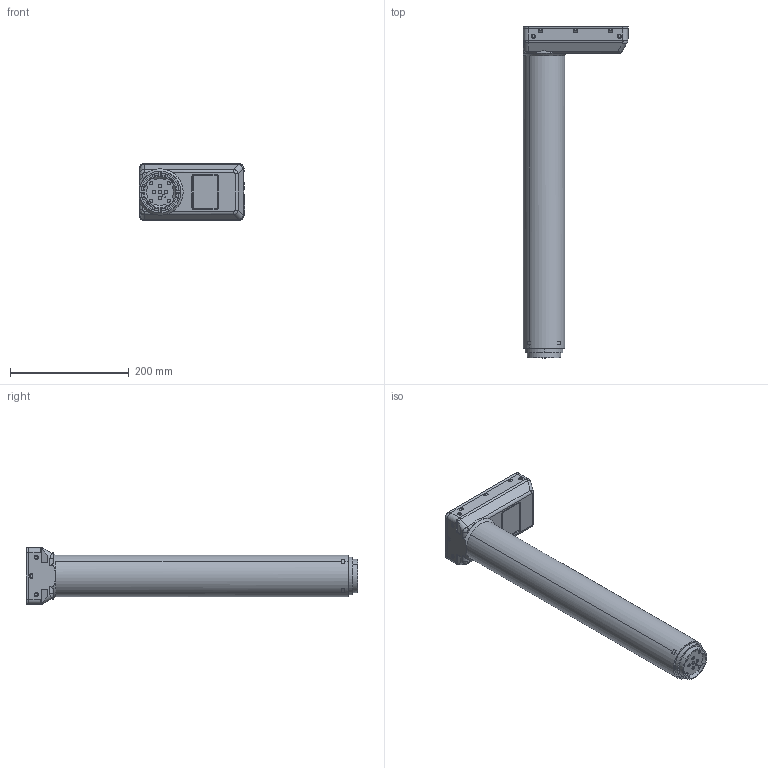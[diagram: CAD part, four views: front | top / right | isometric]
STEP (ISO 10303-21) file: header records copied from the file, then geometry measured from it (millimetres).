
FILE_DESCRIPTION((''),'2;1');
FILE_NAME('DL9_IC_SLAVE_ASM','2019-02-08T12:44:19',('bs'),(''),'CREO PARAMETRIC BY PTC INC, 2017260','CREO PARAMETRIC BY PTC INC, 2017260','');
FILE_SCHEMA(('AUTOMOTIVE_DESIGN { 1 0 10303 214 1 1 1 1 }'));
Length unit declared in the file: millimetre
Products named in the file (4): DL-IC_MOTORHUS_SLAVE_DL9; DL9_IP3; DL9_MP3; DL9_IC_SLAVE_ASM
Assembly tree (3 placements, depth 2):
  DL9_IC_SLAVE_ASM
    DL-IC_MOTORHUS_SLAVE_DL9
    DL9_IP3
    DL9_MP3
Bounding box: 178.6 x 560 x 96.5 mm (x, y, z)
Volume: 2671488.6 mm3; surface area: 192347.1 mm2
Topology: 3 solids, 3 shells, 741 faces, 2004 edges, 1292 vertices
Faces by surface type: plane 339, cylinder 303, torus 44, bspline 32, sphere 14, cone 9
Entity records: 31474 total; most frequent: CARTESIAN_POINT 8746, ORIENTED_EDGE 3996, DIRECTION 3598, EDGE_CURVE 1998, VERTEX_POINT 1292, AXIS2_PLACEMENT_3D 1285, VECTOR 1028, LINE 1028
